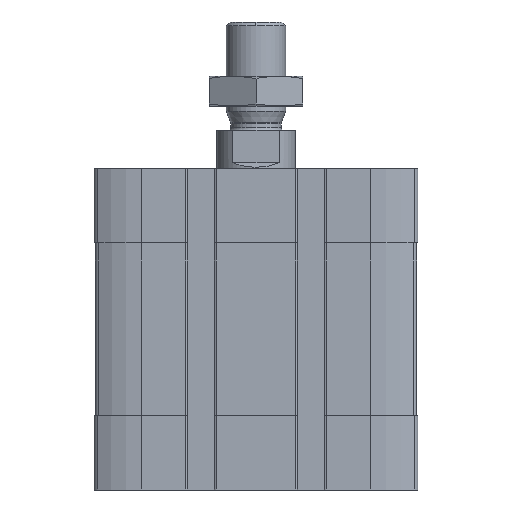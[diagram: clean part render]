
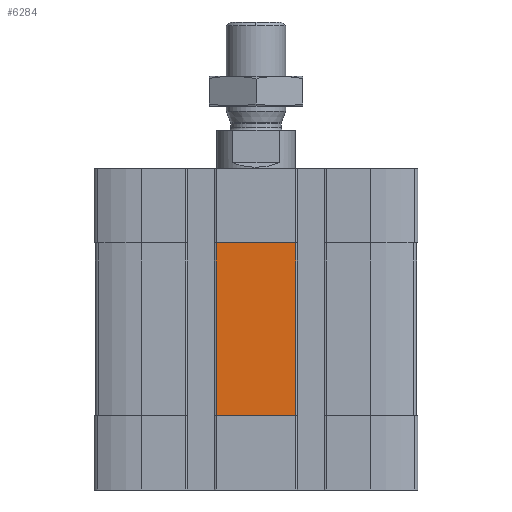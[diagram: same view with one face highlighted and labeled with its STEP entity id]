
A CAD part, front view. The second image highlights one B-rep face of the part: STEP entity #6284.
In plain terms, the highlighted planar face has unit normal (0, -1, 0).
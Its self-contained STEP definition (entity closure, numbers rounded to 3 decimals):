
#204 = DIRECTION ( 'NONE',  ( 0., 0., -1. ) ) ;
#856 = CARTESIAN_POINT ( 'NONE',  ( -8., -32.5, -50. ) ) ;
#1027 = VECTOR ( 'NONE', #15555, 1000. ) ;
#2093 = EDGE_CURVE ( 'NONE', #9951, #6176, #14722, .T. ) ;
#2221 = EDGE_CURVE ( 'NONE', #2244, #5697, #4078, .T. ) ;
#2244 = VERTEX_POINT ( 'NONE', #15808 ) ;
#3307 = VECTOR ( 'NONE', #204, 1000. ) ;
#4078 = LINE ( 'NONE', #856, #3307 ) ;
#4783 = LINE ( 'NONE', #15642, #1027 ) ;
#4863 = VECTOR ( 'NONE', #14506, 1000. ) ;
#5320 = DIRECTION ( 'NONE',  ( -1., 0., 0. ) ) ;
#5332 = EDGE_CURVE ( 'NONE', #5697, #9951, #4783, .T. ) ;
#5439 = FACE_OUTER_BOUND ( 'NONE', #14796, .T. ) ;
#5502 = CARTESIAN_POINT ( 'NONE',  ( 8., -32.5, -50. ) ) ;
#5697 = VERTEX_POINT ( 'NONE', #12261 ) ;
#6176 = VERTEX_POINT ( 'NONE', #8802 ) ;
#6284 = ADVANCED_FACE ( 'NONE', ( #5439 ), #7681, .T. ) ;
#6577 = ORIENTED_EDGE ( 'NONE', *, *, #2093, .T. ) ;
#7280 = LINE ( 'NONE', #12717, #9837 ) ;
#7571 = DIRECTION ( 'NONE',  ( 0., 0., -1. ) ) ;
#7575 = DIRECTION ( 'NONE',  ( 0., -1., 0. ) ) ;
#7681 = PLANE ( 'NONE',  #14307 ) ;
#7701 = CARTESIAN_POINT ( 'NONE',  ( -8., -32.5, -50. ) ) ;
#8573 = EDGE_CURVE ( 'NONE', #6176, #2244, #7280, .T. ) ;
#8598 = ORIENTED_EDGE ( 'NONE', *, *, #2221, .T. ) ;
#8802 = CARTESIAN_POINT ( 'NONE',  ( 8., -32.5, -15. ) ) ;
#9837 = VECTOR ( 'NONE', #5320, 1000. ) ;
#9951 = VERTEX_POINT ( 'NONE', #5502 ) ;
#10249 = ORIENTED_EDGE ( 'NONE', *, *, #8573, .T. ) ;
#11095 = ORIENTED_EDGE ( 'NONE', *, *, #5332, .T. ) ;
#12261 = CARTESIAN_POINT ( 'NONE',  ( -8., -32.5, -50. ) ) ;
#12717 = CARTESIAN_POINT ( 'NONE',  ( 0., -32.5, -15. ) ) ;
#13360 = CARTESIAN_POINT ( 'NONE',  ( 8., -32.5, -50. ) ) ;
#14307 = AXIS2_PLACEMENT_3D ( 'NONE', #7701, #7575, #7571 ) ;
#14506 = DIRECTION ( 'NONE',  ( 0., 0., 1. ) ) ;
#14722 = LINE ( 'NONE', #13360, #4863 ) ;
#14796 = EDGE_LOOP ( 'NONE', ( #11095, #6577, #10249, #8598 ) ) ;
#15555 = DIRECTION ( 'NONE',  ( 1., 0., 0. ) ) ;
#15642 = CARTESIAN_POINT ( 'NONE',  ( -8., -32.5, -50. ) ) ;
#15808 = CARTESIAN_POINT ( 'NONE',  ( -8., -32.5, -15. ) ) ;
